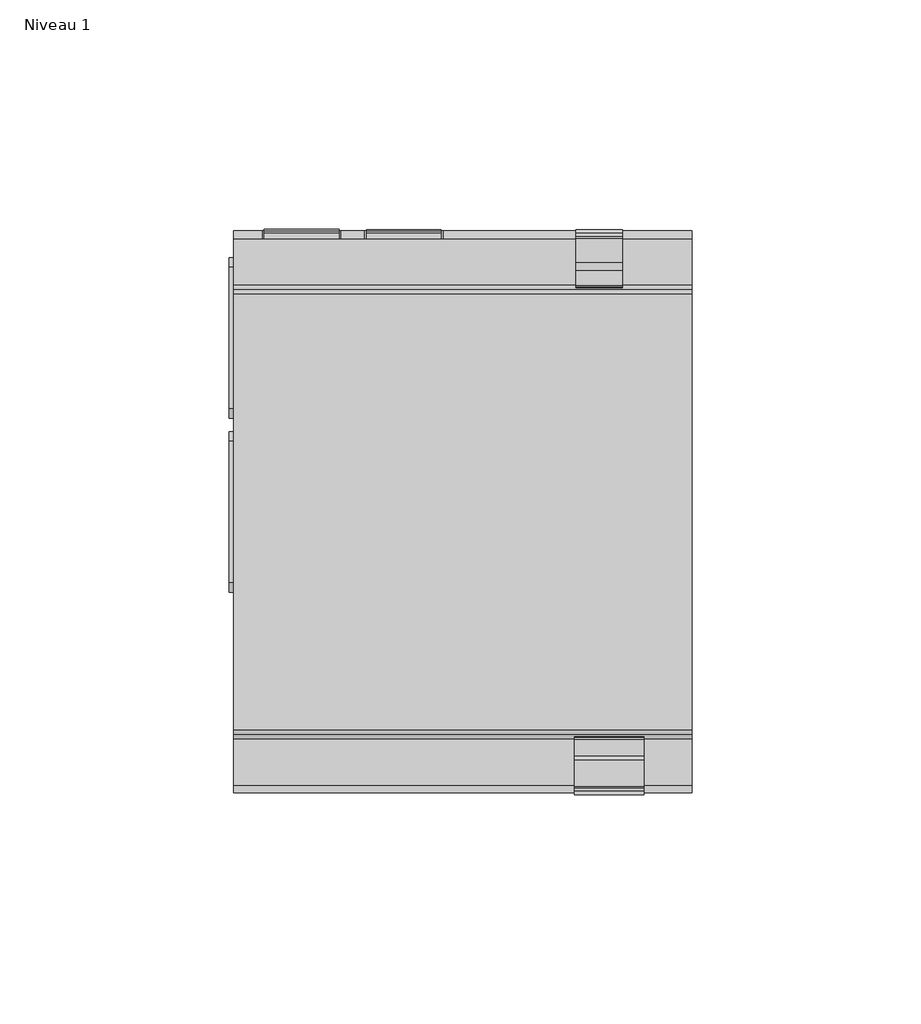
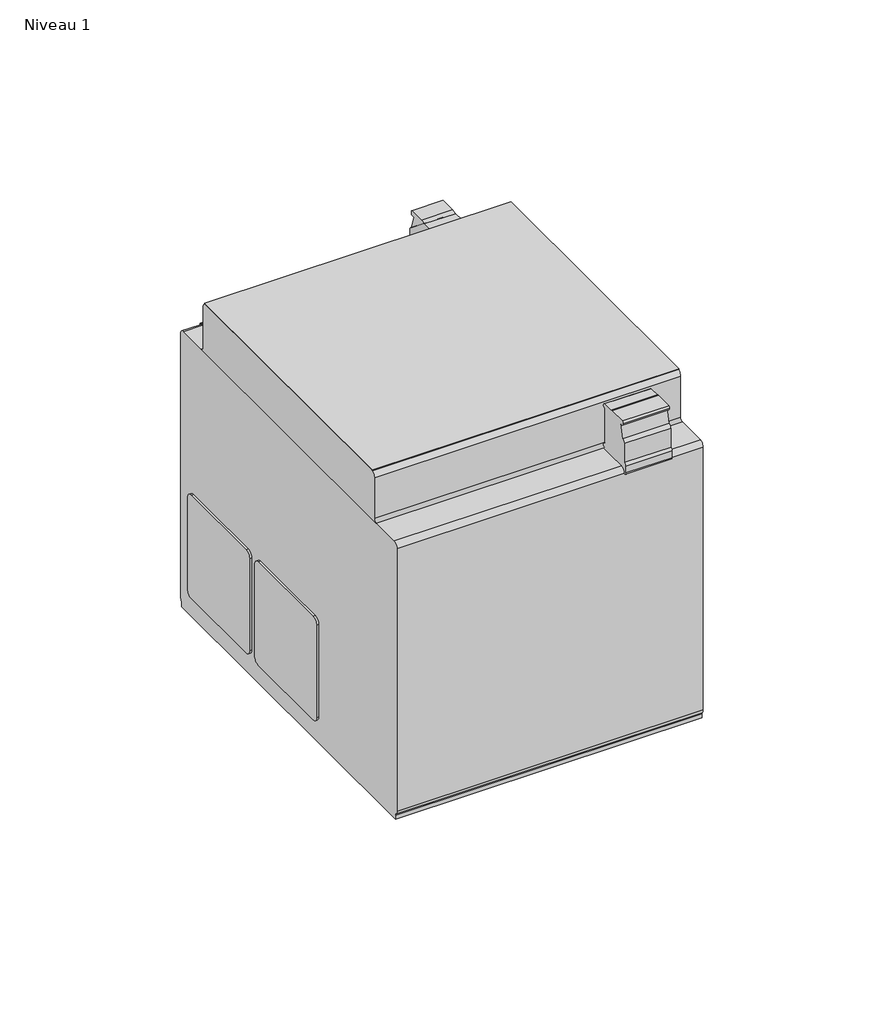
# One storey: 1 proxy.
"""IFC4 building model written with IfcOpenShell, lengths in millimetres."""

import ifcopenshell
import ifcopenshell.guid

model = None  # the IFC model being written
_history = None  # IfcOwnerHistory: only IFC2X3 demands one
_inside = {}  # id of a spatial element -> (the spatial element, [elements in it])
_under = {}  # id of a project, library or spatial element -> (it, [spatial elements below it])
_declared = {}  # id of a project -> (the project, [libraries it declares])
_typed = {}  # id of a type object -> (the type object, [elements of that type])
_made_of = {}  # id of a material, layer set ... -> (it, [elements and type objects made of it])


def new_model(schema):
    """Start an empty IFC model of exactly this schema.

    Asked for "IFC4X3", IfcOpenShell would pick the latest addendum, in which some entities
    have other attributes; the version numbers below select the first issue.
    IFC2X3 requires an IfcOwnerHistory on every rooted entity: one is made here for all.
    """
    global model, _history
    if schema == "IFC4X3":
        model = ifcopenshell.file(schema_version=(4, 3, 0, 0))
    else:
        model = ifcopenshell.file(schema=schema)
    _inside.clear()
    _under.clear()
    _declared.clear()
    _typed.clear()
    _made_of.clear()
    _history = None
    if model.schema == "IFC2X3":
        org = make("IfcOrganization", Name="unknown")
        user = make(
            "IfcPersonAndOrganization",
            ThePerson=make("IfcPerson", FamilyName="unknown"),
            TheOrganization=org,
        )
        app = make(
            "IfcApplication",
            ApplicationDeveloper=org,
            Version="unknown",
            ApplicationFullName="unknown",
            ApplicationIdentifier="unknown",
        )
        _history = make(
            "IfcOwnerHistory",
            OwningUser=user,
            OwningApplication=app,
            ChangeAction="ADDED",
            CreationDate=0,
        )
    return model


def make(cls, **values):
    """One entity of the class cls with the attributes given. An attribute that is None is left unset."""
    return model.create_entity(
        cls, **{name: value for name, value in values.items() if value is not None}
    )


def rooted(cls, **values):
    """An entity with a GlobalId (a new one), such as an element, a storey or a relation."""
    return make(cls, GlobalId=ifcopenshell.guid.new(), OwnerHistory=_history, **values)


def si_unit(unit_type, name, prefix=None):
    """IfcSIUnit, for example si_unit("LENGTHUNIT", "METRE", prefix="MILLI")."""
    return make("IfcSIUnit", UnitType=unit_type, Prefix=prefix, Name=name)


def assignment(units):
    """IfcUnitAssignment: the units of a project."""
    return None if units is None else make("IfcUnitAssignment", Units=units)


def point(xyz):
    """IfcCartesianPoint."""
    return None if xyz is None else make("IfcCartesianPoint", Coordinates=xyz)


def direction(xyz):
    """IfcDirection."""
    return None if xyz is None else make("IfcDirection", DirectionRatios=xyz)


def frame(location, z_axis=None, x_axis=None):
    """IfcAxis2Placement3D, a coordinate frame: its origin and axes. An axis left out is left unset."""
    return make(
        "IfcAxis2Placement3D",
        Location=point(location),
        Axis=direction(z_axis),
        RefDirection=direction(x_axis),
    )


def frame_2d(location, x_axis=None):
    """IfcAxis2Placement2D, a coordinate frame in the plane: its origin and x axis."""
    return make(
        "IfcAxis2Placement2D", Location=point(location), RefDirection=direction(x_axis)
    )


def origin():
    """The frame at (0, 0, 0) with its axes left unset."""
    return frame((0.0, 0.0, 0.0))


def place(relative_to, where):
    """IfcLocalPlacement: puts the frame where relative to a parent placement (None: the world)."""
    return make(
        "IfcLocalPlacement", PlacementRelTo=relative_to, RelativePlacement=where
    )


def context(
    kind, dimensions, precision=None, world=None, true_north=None, identifier=None
):
    """IfcGeometricRepresentationContext, for example the 3D "Model" context."""
    return make(
        "IfcGeometricRepresentationContext",
        ContextIdentifier=identifier,
        ContextType=kind,
        CoordinateSpaceDimension=dimensions,
        Precision=precision,
        WorldCoordinateSystem=world,
        TrueNorth=true_north,
    )


def project(units=None, contexts=None):
    """IfcProject with its units and contexts."""
    return rooted(
        "IfcProject",
        Name="project",
        RepresentationContexts=contexts,
        UnitsInContext=assignment(units),
    )


def spatial(cls, under=None, at=None, **own):
    """A site, building, storey or space (cls), placed at a placement, below another one or the project."""
    s = rooted(cls, ObjectPlacement=at, **own)
    if under is not None:
        _under.setdefault(under.id(), (under, []))[1].append(s)
    return s


def polyline(points):
    """IfcPolyline through the points."""
    return make("IfcPolyline", Points=[point(p) for p in points])


def circle_curve(where, radius):
    """IfcCircle in the frame where."""
    return make("IfcCircle", Position=where, Radius=radius)


def trimmed(basis, trim1, trim2, sense, master):
    """IfcTrimmedCurve: the piece of a basis curve between two trims."""
    return make(
        "IfcTrimmedCurve",
        BasisCurve=basis,
        Trim1=trim1,
        Trim2=trim2,
        SenseAgreement=sense,
        MasterRepresentation=master,
    )


def segment(curve, same_sense, transition):
    """IfcCompositeCurveSegment."""
    return make(
        "IfcCompositeCurveSegment",
        Transition=transition,
        SameSense=same_sense,
        ParentCurve=curve,
    )


def composite_curve(segments, self_intersect=None):
    """IfcCompositeCurve: segments joined end to end."""
    return make("IfcCompositeCurve", Segments=segments, SelfIntersect=self_intersect)


def outline(outer, holes=None, kind="AREA"):
    """IfcArbitraryClosedProfileDef: a profile drawn as a closed curve; with holes, ...WithVoids."""
    if holes is None:
        return make("IfcArbitraryClosedProfileDef", ProfileType=kind, OuterCurve=outer)
    return make(
        "IfcArbitraryProfileDefWithVoids",
        ProfileType=kind,
        OuterCurve=outer,
        InnerCurves=holes,
    )


def extrude(swept, where, along, depth):
    """IfcExtrudedAreaSolid: the profile swept, set in the frame where, extruded along a direction by depth."""
    return make(
        "IfcExtrudedAreaSolid",
        SweptArea=swept,
        Position=where,
        ExtrudedDirection=direction(along),
        Depth=depth,
    )


def faces_of(points, faces, orient=None, outer=None):
    """IfcFace entities. A face is a list of loops; a loop is a list of indices into points, from 0.

    orient and outer hold one flag for each loop. By default every Orientation is true, the
    first loop of a face is its IfcFaceOuterBound and the others are IfcFaceBound.
    """
    made = []
    for i, loops in enumerate(faces):
        bounds = []
        for j, loop in enumerate(loops):
            is_outer = j == 0 if outer is None else outer[i][j]
            bounds.append(
                make(
                    "IfcFaceOuterBound" if is_outer else "IfcFaceBound",
                    Bound=make("IfcPolyLoop", Polygon=[points[k] for k in loop]),
                    Orientation=True if orient is None else orient[i][j],
                )
            )
        made.append(make("IfcFace", Bounds=bounds))
    return made


def faceted_brep(points, faces, orient=None, outer=None, voids=None):
    """IfcFacetedBrep: a solid bounded by flat faces; with voids (closed shells), ...WithVoids."""
    shared = [point(p) for p in points]
    hull = make("IfcClosedShell", CfsFaces=faces_of(shared, faces, orient, outer))
    if voids is None:
        return make("IfcFacetedBrep", Outer=hull)
    return make(
        "IfcFacetedBrepWithVoids",
        Outer=hull,
        Voids=[
            make(cls, CfsFaces=faces_of(shared, fs, o, b)) for cls, fs, o, b in voids
        ],
    )


def shape(context_of_items, identifier, shape_type, items):
    """IfcShapeRepresentation: the items that make up one representation, for example the "Body"."""
    return make(
        "IfcShapeRepresentation",
        ContextOfItems=context_of_items,
        RepresentationIdentifier=identifier,
        RepresentationType=shape_type,
        Items=items,
    )


def source(mapping_origin, context_of_items, identifier, shape_type, items):
    """IfcRepresentationMap: a shape defined once, which mapped items show again and again."""
    return make(
        "IfcRepresentationMap",
        MappingOrigin=mapping_origin,
        MappedRepresentation=shape(context_of_items, identifier, shape_type, items),
    )


def transform(
    local_origin,
    x_axis=None,
    y_axis=None,
    z_axis=None,
    scale=None,
    scale2=None,
    scale3=None,
    uniform=True,
):
    """IfcCartesianTransformationOperator3D, or its non-uniform kind. x_axis, y_axis, z_axis: its Axis1, 2, 3."""
    if uniform:
        return make(
            "IfcCartesianTransformationOperator3D",
            Axis1=direction(x_axis),
            Axis2=direction(y_axis),
            LocalOrigin=point(local_origin),
            Scale=scale,
            Axis3=direction(z_axis),
        )
    return make(
        "IfcCartesianTransformationOperator3DnonUniform",
        Axis1=direction(x_axis),
        Axis2=direction(y_axis),
        LocalOrigin=point(local_origin),
        Scale=scale,
        Axis3=direction(z_axis),
        Scale2=scale2,
        Scale3=scale3,
    )


def mapped(mapping_source, mapping_target):
    """IfcMappedItem: shows the shape of a source again, moved by a transform."""
    return make(
        "IfcMappedItem", MappingSource=mapping_source, MappingTarget=mapping_target
    )


def made_of(thing, what):
    """Note that an element or type object is made of a material, layer set ...; save() writes the relation."""
    if what is not None:
        _made_of.setdefault(what.id(), (what, []))[1].append(thing)
    return thing


def element(
    cls,
    number,
    at=None,
    inside=None,
    cuts=None,
    type_object=None,
    material=None,
    context=None,
    identifier="Body",
    shape_type=None,
    held_by="IfcProductDefinitionShape",
    body=None,
    shapes=None,
    **own,
):
    """One element of the class cls, such as IfcWall. Its Tag is "e" and its number.

    at: its placement. inside: the storey or other place that contains it. cuts: it is an
    opening in that element (IfcRelVoidsElement). A single representation is given by context,
    identifier, shape_type and body (its items); several are given by shapes. held_by: the class
    of the entity that holds the representations. save() writes the other relations.
    """
    e = rooted(cls, Tag="e%d" % number, ObjectPlacement=at, **own)
    if body is not None:
        shapes = [shape(context, identifier, shape_type, body)]
    if shapes is not None:
        e.Representation = make(held_by, Representations=shapes)
    if inside is not None:
        _inside.setdefault(inside.id(), (inside, []))[1].append(e)
    if cuts is not None:
        rooted(
            "IfcRelVoidsElement", RelatingBuildingElement=cuts, RelatedOpeningElement=e
        )
    if type_object is not None:
        _typed.setdefault(type_object.id(), (type_object, []))[1].append(e)
    return made_of(e, material)


def aggregate(whole, parts):
    """IfcRelAggregates: a whole, such as a stair, and the parts it consists of."""
    return rooted("IfcRelAggregates", RelatingObject=whole, RelatedObjects=parts)


def save(model, path):
    """Write the relations noted so far, then the file.

    IfcRelAggregates (storeys below a building ...), IfcRelContainedInSpatialStructure (elements
    in a storey), IfcRelDefinesByType, IfcRelAssociatesMaterial and IfcRelDeclares: one each for
    every whole, place, type object, material and project.
    """
    for whole, parts in _under.values():
        aggregate(whole, parts)
    for where, things in _inside.values():
        rooted(
            "IfcRelContainedInSpatialStructure",
            RelatedElements=things,
            RelatingStructure=where,
        )
    for kind, things in _typed.values():
        rooted("IfcRelDefinesByType", RelatedObjects=things, RelatingType=kind)
    for what, things in _made_of.values():
        rooted("IfcRelAssociatesMaterial", RelatedObjects=things, RelatingMaterial=what)
    for by, libraries in _declared.values():
        rooted("IfcRelDeclares", RelatingContext=by, RelatedDefinitions=libraries)
    model.write(path)


def plane_surface(at):
    """IfcPlane: the flat surface through the origin of the frame at, square to its z axis."""
    return make("IfcPlane", Position=at)


def cylinder_surface(at, radius):
    """IfcCylindricalSurface: all points at the distance radius from the z axis of the frame at."""
    return make("IfcCylindricalSurface", Position=at, Radius=radius)


def advanced_brep(points, edges, surfaces, faces):
    """IfcAdvancedBrep: a solid bounded by faces that lie on surfaces and meet in shared edges.

    An edge is (start, end): straight between two places in points (the first is 0);
    or (start, end, curve); or (start, end, curve, False) where it runs against its curve.
    A face is (place in surfaces, loops), or (place, loops, False) where it looks against
    its surface's normal. A loop lists edges by number (the first is 1), with a minus sign
    where the edge is run from its end to its start. The first loop is the outer one.
    """
    corners = [point(p) for p in points]
    vertices = [make("IfcVertexPoint", VertexGeometry=c) for c in corners]
    made = []
    for start, end, *more in edges:
        made.append(
            make(
                "IfcEdgeCurve",
                EdgeStart=vertices[start],
                EdgeEnd=vertices[end],
                EdgeGeometry=more[0] if more else make("IfcPolyline", Points=[corners[start], corners[end]]),
                SameSense=more[1] if len(more) > 1 else True,
            )
        )
    hull = []
    for where, loops, *sense in faces:
        bounds = []
        for j, loop in enumerate(loops):
            ring = [make("IfcOrientedEdge", EdgeElement=made[abs(k) - 1], Orientation=k > 0) for k in loop]
            bounds.append(
                make(
                    "IfcFaceOuterBound" if j == 0 else "IfcFaceBound",
                    Bound=make("IfcEdgeLoop", EdgeList=ring),
                    Orientation=True,
                )
            )
        hull.append(make("IfcAdvancedFace", Bounds=bounds, FaceSurface=surfaces[where], SameSense=sense[0] if sense else True))
    return make("IfcAdvancedBrep", Outer=make("IfcClosedShell", CfsFaces=hull))


def electrical_equipment_22382a5e(model_context):
    return source(origin(), model_context, "Body", "SolidModel", [
        faceted_brep([(-50.3146317, -40.2597523, 112.75), (49.6853683, -40.2597523, 112.75), (49.6853683, 54.7402477, 112.75), (-50.3146317, 54.7402477, 112.75), (-50.3146317, 54.7402477, 112.5), (49.6853683, 54.7402477, 112.5), (49.6853683, 53.9402477, 112.5), (49.6853683, -39.5772719, 112.5), (49.6853683, -40.2597523, 112.5), (-50.3146317, -40.2597523, 112.5), (-50.3146317, -39.5772719, 112.5), (-50.3146317, 53.9402477, 112.5)], [[[0, 1, 2, 3]], [[4, 5, 6, 7, 8, 9, 10, 11]], [[1, 0, 9, 8]], [[2, 1, 8, 7, 6, 5]], [[3, 2, 5, 4]], [[0, 3, 4, 11, 10, 9]]]),
        extrude(outline(composite_curve([segment(polyline([(56.7402477, 95.6), (-42.2597523, 95.6)]), True, "CONTINUOUS"), segment(trimmed(circle_curve(frame_2d((-42.2597523, 96.6)), 1.0), [point((-42.2597523, 95.6))], [point((-41.2597523, 96.6))], True, "CARTESIAN"), True, "CONTINUOUS"), segment(polyline([(-41.2597523, 96.6), (-41.2597523, 110.6314162)]), True, "CONTINUOUS"), segment(trimmed(circle_curve(frame_2d((-39.443734, 110.6880139)), 1.8169001), [point((-41.2597523, 110.6314162))], [point((-39.5772719, 112.5))], False, "CARTESIAN"), True, "CONTINUOUS"), segment(polyline([(-39.5772719, 112.5), (53.9402477, 112.5)]), True, "CONTINUOUS"), segment(trimmed(circle_curve(frame_2d((53.9402477, 110.7)), 1.8), [point((53.9402477, 112.5))], [point((55.7402477, 110.7))], False, "CARTESIAN"), True, "CONTINUOUS"), segment(polyline([(55.7402477, 110.7), (55.7402477, 96.6)]), True, "CONTINUOUS"), segment(trimmed(circle_curve(frame_2d((56.7402477, 96.6)), 1.0), [point((55.7402477, 96.6))], [point((56.7402477, 95.6))], True, "CARTESIAN"), True, "CONTINUOUS")], self_intersect=False)), frame((-50.3146317, 0.0, 0.0), z_axis=(1.0, 0.0, 0.0), x_axis=(0.0, 1.0, 0.0)), (0.0, 0.0, 1.0), 100.0),
        extrude(outline(composite_curve([segment(polyline([(61.5925701, 111.07), (66.977955, 111.07)]), True, "CONTINUOUS"), segment(trimmed(circle_curve(frame_2d((66.2861586, 110.3582814)), 0.992535), [point((66.977955, 111.07))], [point((66.8892656, 109.57))], False, "CARTESIAN"), True, "CONTINUOUS"), segment(polyline([(66.8892656, 109.57), (65.877955, 109.57), (67.0309554, 105.2669438)]), True, "CONTINUOUS"), segment(trimmed(circle_curve(frame_2d((66.4695429, 103.84)), 1.5334122), [point((67.0309554, 105.2669438))], [point((68.002955, 103.84))], False, "CARTESIAN"), True, "CONTINUOUS"), segment(polyline([(68.002955, 103.84), (68.002955, 97.6942542)]), True, "CONTINUOUS"), segment(trimmed(circle_curve(frame_2d((69.5410007, 98.4684748)), 1.7219181), [point((68.002955, 97.6942542))], [point((68.8058426, 96.9113799))], True, "CARTESIAN"), True, "CONTINUOUS"), segment(polyline([(68.8058426, 96.9113799), (68.8058426, 93.6358813), (67.297955, 93.37), (58.2813391, 93.37), (56.197955, 93.6053488), (56.197955, 96.6274333)]), True, "CONTINUOUS"), segment(trimmed(circle_curve(frame_2d((57.0691961, 96.4948595)), 0.88127), [point((56.197955, 96.6274333))], [point((57.172955, 97.37))], False, "CARTESIAN"), True, "CONTINUOUS"), segment(polyline([(57.172955, 97.37), (57.172955, 108.5084691)]), True, "CONTINUOUS"), segment(trimmed(circle_curve(frame_2d((56.5356003, 108.8574423)), 0.7266384), [point((57.172955, 108.5084691))], [point((56.677955, 109.57))], True, "CARTESIAN"), True, "CONTINUOUS"), segment(trimmed(circle_curve(frame_2d((57.137021, 110.1612762)), 0.7485647), [point((56.677955, 109.57))], [point((56.677955, 110.7525524))], False, "CARTESIAN"), True, "CONTINUOUS"), segment(polyline([(56.677955, 110.7525524), (60.0085378, 110.7525524)]), True, "CONTINUOUS"), segment(trimmed(circle_curve(frame_2d((61.5925701, 106.9591927)), 4.1108073), [point((60.0085378, 110.7525524))], [point((61.5925701, 111.07))], False, "CARTESIAN"), True, "CONTINUOUS")], self_intersect=False), holes=[composite_curve([segment(polyline([(68.5402477, 93.9367188), (68.5402477, 95.6), (66.7402477, 95.6)]), True, "CONTINUOUS"), segment(trimmed(circle_curve(frame_2d((66.7402477, 93.794381)), 1.805619), [point((66.7402477, 95.6))], [point((68.5402477, 93.9367188))], False, "CARTESIAN"), True, "CONTINUOUS")], self_intersect=False)]), frame((24.3953683, 0.0, 0.0), z_axis=(1.0, 0.0, 0.0), x_axis=(0.0, 1.0, 0.0)), (0.0, 0.0, 1.0), 10.2),
        advanced_brep(
        [(-43.6073283, 68.5402477, 93.9367188), (-27.3073283, 68.5402477, 93.9367188), (-27.3073283, 68.5402477, 94.9), (-43.6073283, 68.5402477, 94.9), (-43.6073283, 68.1677863, 94.9), (-27.3073283, 68.1677863, 94.9), (-27.3073283, 53.0602477, 81.4), (-27.3073283, 53.0602477, 94.9), (-43.6073283, 53.0602477, 94.9), (-43.6073283, 53.0602477, 81.4), (-39.1073283, 53.0602477, 93.7), (-31.8073283, 53.0602477, 93.7), (-31.8073283, 53.0602477, 91.04), (-29.3073283, 53.0602477, 91.04), (-29.3073283, 53.0602477, 83.75), (-41.6073283, 53.0602477, 83.75), (-41.6073283, 53.0602477, 91.04), (-39.1073283, 53.0602477, 91.04), (-27.3073283, 68.9402477, 81.4), (-43.6073283, 68.9402477, 81.4), (-43.6073283, 68.9402477, 94.9), (-27.3073283, 68.9402477, 94.9), (-39.1073283, 68.9402477, 93.7), (-39.1073283, 68.9402477, 91.04), (-41.6073283, 68.9402477, 91.04), (-41.6073283, 68.9402477, 83.75), (-29.3073283, 68.9402477, 83.75), (-29.3073283, 68.9402477, 91.04), (-31.8073283, 68.9402477, 91.04), (-31.8073283, 68.9402477, 93.7)],
        [
            (0, 1),
            (1, 2),
            (2, 3),
            (3, 0),
            (0, 4, circle_curve(frame((-43.6073283, 66.7402477, 93.794381), z_axis=(1.0, 0.0, 0.0), x_axis=(0.0, 1.0, 0.0)), 1.805619)),
            (4, 5),
            (5, 1, circle_curve(frame((-27.3073283, 66.7402477, 93.794381), z_axis=(-1.0, 0.0, 0.0), x_axis=(0.0, 1.0, 0.0)), 1.805619)),
            (6, 7),
            (7, 8),
            (8, 9),
            (9, 6),
            (10, 11),
            (11, 12),
            (12, 13),
            (13, 14),
            (14, 15),
            (15, 16),
            (16, 17),
            (17, 10),
            (18, 19),
            (19, 20),
            (20, 21),
            (21, 18),
            (22, 23),
            (23, 24),
            (24, 25),
            (25, 26),
            (26, 27),
            (27, 28),
            (28, 29),
            (29, 22),
            (9, 19),
            (18, 6),
            (8, 4),
            (3, 20),
            (7, 5),
            (2, 21),
            (17, 23),
            (22, 10),
            (16, 24),
            (15, 25),
            (14, 26),
            (13, 27),
            (12, 28),
            (11, 29),
        ],
        [
            plane_surface(frame((-50.3146317, 68.5402477, 95.6), z_axis=(0.0, -1.0, 0.0), x_axis=(1.0, 0.0, 0.0))),
            cylinder_surface(frame((49.6853683, 66.7402477, 93.794381), z_axis=(1.0, 0.0, 0.0), x_axis=(0.0, 1.0, 0.0)), 1.805619),
            plane_surface(frame((-27.3073283, 53.0602477, 81.4), z_axis=(0.0, -1.0, 0.0), x_axis=(1.0, 0.0, 0.0))),
            plane_surface(frame((-27.3073283, 68.9402477, 81.4), z_axis=(0.0, 1.0, 0.0), x_axis=(-1.0, 0.0, 0.0))),
            plane_surface(frame((-27.3073283, 68.9402477, 81.4), z_axis=(0.0, 0.0, -1.0), x_axis=(0.0, -1.0, 0.0))),
            plane_surface(frame((-43.6073283, 68.9402477, 81.4), z_axis=(-1.0, 0.0, 0.0), x_axis=(0.0, -1.0, 0.0))),
            plane_surface(frame((-43.6073283, 68.9402477, 94.9), z_axis=(0.0, 0.0, 1.0), x_axis=(0.0, -1.0, 0.0))),
            plane_surface(frame((-27.3073283, 68.9402477, 94.9), z_axis=(1.0, 0.0, 0.0), x_axis=(0.0, -1.0, 0.0))),
            plane_surface(frame((-39.1073283, 68.9402477, 93.7), z_axis=(1.0, 0.0, 0.0), x_axis=(0.0, -1.0, 0.0))),
            plane_surface(frame((-39.1073283, 68.9402477, 91.04), z_axis=(0.0, 0.0, -1.0), x_axis=(0.0, -1.0, 0.0))),
            plane_surface(frame((-41.6073283, 68.9402477, 91.04), z_axis=(1.0, 0.0, 0.0), x_axis=(0.0, -1.0, 0.0))),
            plane_surface(frame((-41.6073283, 68.9402477, 83.75), z_axis=(0.0, 0.0, 1.0), x_axis=(0.0, -1.0, 0.0))),
            plane_surface(frame((-29.3073283, 68.9402477, 83.75), z_axis=(-1.0, 0.0, 0.0), x_axis=(0.0, -1.0, 0.0))),
            plane_surface(frame((-29.3073283, 68.9402477, 91.04), z_axis=(0.0, 0.0, -1.0), x_axis=(0.0, -1.0, 0.0))),
            plane_surface(frame((-31.8073283, 68.9402477, 91.04), z_axis=(-1.0, 0.0, 0.0), x_axis=(0.0, -1.0, 0.0))),
            plane_surface(frame((-31.8073283, 68.9402477, 93.7), z_axis=(0.0, 0.0, -1.0), x_axis=(0.0, -1.0, 0.0))),
        ],
        [
            (0, [[1, 2, 3, 4]]),
            (1, [[-1, 5, 6, 7]]),
            (2, [[8, 9, 10, 11], [12, 13, 14, 15, 16, 17, 18, 19]]),
            (3, [[20, 21, 22, 23], [24, 25, 26, 27, 28, 29, 30, 31]]),
            (4, [[-11, 32, -20, 33]]),
            (5, [[-10, 34, -5, -4, 35, -21, -32]]),
            (6, [[-9, 36, -6, -34]]),
            (6, [[-22, -35, -3, 37]]),
            (7, [[-8, -33, -23, -37, -2, -7, -36]]),
            (8, [[-19, 38, -24, 39]]),
            (9, [[-18, 40, -25, -38]]),
            (10, [[-17, 41, -26, -40]]),
            (11, [[-16, 42, -27, -41]]),
            (12, [[-15, 43, -28, -42]]),
            (13, [[-14, 44, -29, -43]]),
            (14, [[-13, 45, -30, -44]]),
            (15, [[-12, -39, -31, -45]]),
        ],
    ),
        advanced_brep(
        [(-21.3146317, 68.5402477, 93.9367188), (-5.0146317, 68.5402477, 93.9367188), (-5.0146317, 68.5402477, 94.9), (-21.3146317, 68.5402477, 94.9), (-21.3146317, 68.1677863, 94.9), (-5.0146317, 68.1677863, 94.9), (-5.0146317, 53.0602477, 81.4), (-5.0146317, 53.0602477, 94.9), (-21.3146317, 53.0602477, 94.9), (-21.3146317, 53.0602477, 81.4), (-16.8146317, 53.0602477, 93.7), (-9.5146317, 53.0602477, 93.7), (-9.5146317, 53.0602477, 91.04), (-7.0146317, 53.0602477, 91.04), (-7.0146317, 53.0602477, 83.75), (-19.3146317, 53.0602477, 83.75), (-19.3146317, 53.0602477, 91.04), (-16.8146317, 53.0602477, 91.04), (-5.0146317, 68.8602477, 81.4), (-21.3146317, 68.8602477, 81.4), (-21.3146317, 68.8602477, 94.9), (-5.0146317, 68.8602477, 94.9), (-16.8146317, 68.8602477, 93.7), (-16.8146317, 68.8602477, 91.04), (-19.3146317, 68.8602477, 91.04), (-19.3146317, 68.8602477, 83.75), (-7.0146317, 68.8602477, 83.75), (-7.0146317, 68.8602477, 91.04), (-9.5146317, 68.8602477, 91.04), (-9.5146317, 68.8602477, 93.7)],
        [
            (0, 1),
            (1, 2),
            (2, 3),
            (3, 0),
            (0, 4, circle_curve(frame((-21.3146317, 66.7402477, 93.794381), z_axis=(1.0, 0.0, 0.0), x_axis=(0.0, 1.0, 0.0)), 1.805619)),
            (4, 5),
            (5, 1, circle_curve(frame((-5.0146317, 66.7402477, 93.794381), z_axis=(-1.0, 0.0, 0.0), x_axis=(0.0, 1.0, 0.0)), 1.805619)),
            (6, 7),
            (7, 8),
            (8, 9),
            (9, 6),
            (10, 11),
            (11, 12),
            (12, 13),
            (13, 14),
            (14, 15),
            (15, 16),
            (16, 17),
            (17, 10),
            (18, 19),
            (19, 20),
            (20, 21),
            (21, 18),
            (22, 23),
            (23, 24),
            (24, 25),
            (25, 26),
            (26, 27),
            (27, 28),
            (28, 29),
            (29, 22),
            (9, 19),
            (18, 6),
            (8, 4),
            (3, 20),
            (7, 5),
            (2, 21),
            (17, 23),
            (22, 10),
            (16, 24),
            (15, 25),
            (14, 26),
            (13, 27),
            (12, 28),
            (11, 29),
        ],
        [
            plane_surface(frame((-50.3146317, 68.5402477, 95.6), z_axis=(0.0, -1.0, 0.0), x_axis=(1.0, 0.0, 0.0))),
            cylinder_surface(frame((49.6853683, 66.7402477, 93.794381), z_axis=(1.0, 0.0, 0.0), x_axis=(0.0, 1.0, 0.0)), 1.805619),
            plane_surface(frame((-5.0146317, 53.0602477, 81.4), z_axis=(0.0, -1.0, 0.0), x_axis=(1.0, 0.0, 0.0))),
            plane_surface(frame((-5.0146317, 68.8602477, 81.4), z_axis=(0.0, 1.0, 0.0), x_axis=(-1.0, 0.0, 0.0))),
            plane_surface(frame((-5.0146317, 68.8602477, 81.4), z_axis=(0.0, 0.0, -1.0), x_axis=(0.0, -1.0, 0.0))),
            plane_surface(frame((-21.3146317, 68.8602477, 81.4), z_axis=(-1.0, 0.0, 0.0), x_axis=(0.0, -1.0, 0.0))),
            plane_surface(frame((-21.3146317, 68.8602477, 94.9), z_axis=(0.0, 0.0, 1.0), x_axis=(0.0, -1.0, 0.0))),
            plane_surface(frame((-5.0146317, 68.8602477, 94.9), z_axis=(1.0, 0.0, 0.0), x_axis=(0.0, -1.0, 0.0))),
            plane_surface(frame((-16.8146317, 68.8602477, 93.7), z_axis=(1.0, 0.0, 0.0), x_axis=(0.0, -1.0, 0.0))),
            plane_surface(frame((-16.8146317, 68.8602477, 91.04), z_axis=(0.0, 0.0, -1.0), x_axis=(0.0, -1.0, 0.0))),
            plane_surface(frame((-19.3146317, 68.8602477, 91.04), z_axis=(1.0, 0.0, 0.0), x_axis=(0.0, -1.0, 0.0))),
            plane_surface(frame((-19.3146317, 68.8602477, 83.75), z_axis=(0.0, 0.0, 1.0), x_axis=(0.0, -1.0, 0.0))),
            plane_surface(frame((-7.0146317, 68.8602477, 83.75), z_axis=(-1.0, 0.0, 0.0), x_axis=(0.0, -1.0, 0.0))),
            plane_surface(frame((-7.0146317, 68.8602477, 91.04), z_axis=(0.0, 0.0, -1.0), x_axis=(0.0, -1.0, 0.0))),
            plane_surface(frame((-9.5146317, 68.8602477, 91.04), z_axis=(-1.0, 0.0, 0.0), x_axis=(0.0, -1.0, 0.0))),
            plane_surface(frame((-9.5146317, 68.8602477, 93.7), z_axis=(0.0, 0.0, -1.0), x_axis=(0.0, -1.0, 0.0))),
        ],
        [
            (0, [[1, 2, 3, 4]]),
            (1, [[-1, 5, 6, 7]]),
            (2, [[8, 9, 10, 11], [12, 13, 14, 15, 16, 17, 18, 19]]),
            (3, [[20, 21, 22, 23], [24, 25, 26, 27, 28, 29, 30, 31]]),
            (4, [[-11, 32, -20, 33]]),
            (5, [[-10, 34, -5, -4, 35, -21, -32]]),
            (6, [[-9, 36, -6, -34]]),
            (6, [[-22, -35, -3, 37]]),
            (7, [[-8, -33, -23, -37, -2, -7, -36]]),
            (8, [[-19, 38, -24, 39]]),
            (9, [[-18, 40, -25, -38]]),
            (10, [[-17, 41, -26, -40]]),
            (11, [[-16, 42, -27, -41]]),
            (12, [[-15, 43, -28, -42]]),
            (13, [[-14, 44, -29, -43]]),
            (14, [[-13, 45, -30, -44]]),
            (15, [[-12, -39, -31, -45]]),
        ],
    ),
        extrude(outline(composite_curve([segment(polyline([(-46.0261161, 110.77), (-42.3671575, 110.77)]), True, "CONTINUOUS"), segment(trimmed(circle_curve(frame_2d((-42.7941878, 110.1176491)), 0.7796901), [point((-42.3671575, 110.77))], [point((-42.0310165, 109.9580051))], False, "CARTESIAN"), True, "CONTINUOUS"), segment(trimmed(circle_curve(frame_2d((-42.6279456, 110.2238127)), 0.6534355), [point((-42.0310165, 109.9580051))], [point((-42.8224597, 109.6))], False, "CARTESIAN"), True, "CONTINUOUS"), segment(polyline([(-42.8224597, 109.6), (-42.8224597, 97.4)]), True, "CONTINUOUS"), segment(trimmed(circle_curve(frame_2d((-42.6187437, 96.6158374)), 0.8101921), [point((-42.8224597, 97.4))], [point((-41.8474597, 96.8638943))], False, "CARTESIAN"), True, "CONTINUOUS"), segment(polyline([(-41.8474597, 96.8638943), (-41.8474597, 94.4), (-52.2597523, 94.4), (-53.2129408, 93.4468115), (-54.0570729, 93.575975)]), True, "CONTINUOUS"), segment(trimmed(circle_curve(frame_2d((-53.9812927, 94.071227)), 0.5010162), [point((-54.0570729, 93.575975))], [point((-54.4474597, 94.2548177))], False, "CARTESIAN"), True, "CONTINUOUS"), segment(polyline([(-54.4474597, 94.2548177), (-54.4474597, 96.605)]), True, "CONTINUOUS"), segment(trimmed(circle_curve(frame_2d((-53.6524597, 96.605)), 0.795), [point((-54.4474597, 96.605))], [point((-53.6524597, 97.4))], False, "CARTESIAN"), True, "CONTINUOUS"), segment(polyline([(-53.6524597, 97.4), (-53.6524597, 103.9565594)]), True, "CONTINUOUS"), segment(trimmed(circle_curve(frame_2d((-52.5710746, 103.9565594)), 1.0813851), [point((-53.6524597, 103.9565594))], [point((-52.7540361, 105.0223543))], False, "CARTESIAN"), True, "CONTINUOUS"), segment(polyline([(-52.7540361, 105.0223543), (-51.5274597, 109.6), (-52.4608777, 109.6)]), True, "CONTINUOUS"), segment(trimmed(circle_curve(frame_2d((-52.2607449, 110.2407053)), 0.671235), [point((-52.4608777, 109.6))], [point((-52.9274597, 110.3184733))], False, "CARTESIAN"), True, "CONTINUOUS"), segment(trimmed(circle_curve(frame_2d((-52.11704, 110.4557253)), 0.82196), [point((-52.9274597, 110.3184733))], [point((-52.6274597, 111.1))], False, "CARTESIAN"), True, "CONTINUOUS"), segment(polyline([(-52.6274597, 111.1), (-46.8049449, 111.1)]), True, "CONTINUOUS"), segment(trimmed(circle_curve(frame_2d((-46.8049449, 110.0159481)), 1.0840519), [point((-46.8049449, 111.1))], [point((-46.0261161, 110.77))], False, "CARTESIAN"), True, "CONTINUOUS")], self_intersect=False)), frame((24.1403683, 0.0, 0.0), z_axis=(1.0, 0.0, 0.0), x_axis=(0.0, 1.0, 0.0)), (0.0, 0.0, 1.0), 15.1751992),
        advanced_brep(
        [(-4.5146317, 66.7402477, 95.6), (-21.8146317, 66.7402477, 95.6), (-26.8146317, 66.7402477, 95.6), (-44.1146317, 66.7402477, 95.6), (-50.3146317, 66.7402477, 95.6), (-50.3146317, -52.3763019, 95.6), (49.6853683, -52.3763019, 95.6), (49.6853683, 66.7402477, 95.6), (49.6853683, 67.7402477, 0.0), (49.6853683, -53.2597523, 0.0), (-50.3146317, -53.2597523, 0.0), (-50.3146317, 67.7402477, 0.0), (49.6853683, 68.5402477, 3.3), (-50.3146317, 68.5402477, 3.3), (-50.3146317, 68.5402477, 93.8), (-44.1146317, 68.5402477, 93.8), (-44.1146317, 68.5402477, 80.5), (-26.8146317, 68.5402477, 80.5), (-26.8146317, 68.5402477, 93.8), (-21.8146317, 68.5402477, 93.8), (-21.8146317, 68.5402477, 80.5), (-4.5146317, 68.5402477, 80.5), (-4.5146317, 68.5402477, 93.8), (49.6853683, 68.5402477, 93.8), (-50.3146317, -53.2597523, 1.5), (-50.3146317, -52.2597523, 1.5), (-50.3146317, -54.0597523, 3.3), (-50.3146317, -54.0597523, 93.9165496), (-50.3146317, 66.7402477, 1.5), (-50.3146317, 67.7402477, 1.5), (49.6853683, -54.0597523, 3.3), (49.6853683, -54.0597523, 93.9165496), (49.6853683, 67.7402477, 1.5), (49.6853683, 66.7402477, 1.5), (49.6853683, -52.2597523, 1.5), (49.6853683, -53.2597523, 1.5), (-4.5146317, 66.7402477, 80.5), (-21.8146317, 66.7402477, 80.5), (-44.1146317, 66.7402477, 80.5), (-26.8146317, 66.7402477, 80.5)],
        [
            (0, 1),
            (1, 2),
            (2, 3),
            (3, 4),
            (4, 5),
            (5, 6),
            (6, 7),
            (7, 0),
            (8, 9),
            (9, 10),
            (10, 11),
            (11, 8),
            (12, 13),
            (13, 14),
            (14, 15),
            (15, 16),
            (16, 17),
            (17, 18),
            (18, 19),
            (19, 20),
            (20, 21),
            (21, 22),
            (22, 23),
            (23, 12),
            (10, 24),
            (24, 25),
            (25, 26, circle_curve(frame((-50.3146317, -52.2597523, 3.3), z_axis=(-1.0, 0.0, 0.0), x_axis=(0.0, 1.0, 0.0)), 1.8)),
            (26, 27),
            (27, 5, circle_curve(frame((-50.3146317, -52.3763019, 93.9165496), z_axis=(-1.0, 0.0, 0.0), x_axis=(0.0, 1.0, 0.0)), 1.6834504)),
            (4, 14, circle_curve(frame((-50.3146317, 66.7402477, 93.8), z_axis=(-1.0, 0.0, 0.0), x_axis=(0.0, 1.0, 0.0)), 1.8)),
            (13, 28, circle_curve(frame((-50.3146317, 66.7402477, 3.3), z_axis=(-1.0, 0.0, 0.0), x_axis=(0.0, 1.0, 0.0)), 1.8)),
            (28, 29),
            (29, 11),
            (26, 30),
            (30, 31),
            (31, 27),
            (8, 32),
            (32, 33),
            (33, 12, circle_curve(frame((49.6853683, 66.7402477, 3.3), z_axis=(1.0, 0.0, 0.0), x_axis=(0.0, 1.0, 0.0)), 1.8)),
            (23, 7, circle_curve(frame((49.6853683, 66.7402477, 93.8), z_axis=(1.0, 0.0, 0.0), x_axis=(0.0, 1.0, 0.0)), 1.8)),
            (6, 31, circle_curve(frame((49.6853683, -52.3763019, 93.9165496), z_axis=(1.0, 0.0, 0.0), x_axis=(0.0, 1.0, 0.0)), 1.6834504)),
            (30, 34, circle_curve(frame((49.6853683, -52.2597523, 3.3), z_axis=(1.0, 0.0, 0.0), x_axis=(0.0, 1.0, 0.0)), 1.8)),
            (34, 35),
            (35, 9),
            (25, 34),
            (24, 35),
            (29, 32),
            (28, 33),
            (0, 36),
            (36, 37),
            (37, 1),
            (38, 3),
            (2, 39),
            (39, 38),
            (37, 20),
            (19, 1, circle_curve(frame((-21.8146317, 66.7402477, 93.8), z_axis=(1.0, 0.0, 0.0), x_axis=(0.0, 1.0, 0.0)), 1.8)),
            (36, 21),
            (0, 22, circle_curve(frame((-4.5146317, 66.7402477, 93.8), z_axis=(-1.0, 0.0, 0.0), x_axis=(0.0, 1.0, 0.0)), 1.8)),
            (39, 17),
            (16, 38),
            (2, 18, circle_curve(frame((-26.8146317, 66.7402477, 93.8), z_axis=(-1.0, 0.0, 0.0), x_axis=(0.0, 1.0, 0.0)), 1.8)),
            (15, 3, circle_curve(frame((-44.1146317, 66.7402477, 93.8), z_axis=(1.0, 0.0, 0.0), x_axis=(0.0, 1.0, 0.0)), 1.8)),
        ],
        [
            plane_surface(frame((-50.3146317, 68.5402477, 95.6), z_axis=(0.0, 0.0, 1.0), x_axis=(-1.0, 0.0, 0.0))),
            plane_surface(frame((-50.3146317, 68.5402477, 0.0), z_axis=(0.0, 0.0, -1.0), x_axis=(1.0, 0.0, 0.0))),
            plane_surface(frame((49.6853683, 68.5402477, 95.6), z_axis=(0.0, 1.0, 0.0), x_axis=(0.0, 0.0, -1.0))),
            plane_surface(frame((-50.3146317, 68.5402477, 95.6), z_axis=(-1.0, 0.0, 0.0), x_axis=(0.0, 0.0, -1.0))),
            plane_surface(frame((-50.3146317, -54.0597523, 95.6), z_axis=(0.0, -1.0, 0.0), x_axis=(0.0, 0.0, -1.0))),
            plane_surface(frame((49.6853683, -54.0597523, 95.6), z_axis=(1.0, 0.0, 0.0), x_axis=(0.0, 0.0, -1.0))),
            cylinder_surface(frame((49.6853683, -52.2597523, 3.3), z_axis=(1.0, 0.0, 0.0), x_axis=(0.0, 1.0, 0.0)), 1.8),
            plane_surface(frame((-50.3146317, -52.2597523, 1.5), z_axis=(0.0, 0.0, 1.0), x_axis=(1.0, 0.0, 0.0))),
            plane_surface(frame((-50.3146317, -53.2597523, 1.5), z_axis=(0.0, -1.0, 0.0), x_axis=(1.0, 0.0, 0.0))),
            plane_surface(frame((-50.3146317, 67.7402477, 0.0), z_axis=(0.0, 1.0, 0.0), x_axis=(1.0, 0.0, 0.0))),
            plane_surface(frame((-50.3146317, 67.7402477, 1.5), z_axis=(0.0, 0.0, 1.0), x_axis=(1.0, 0.0, 0.0))),
            cylinder_surface(frame((49.6853683, 66.7402477, 3.3), z_axis=(1.0, 0.0, 0.0), x_axis=(0.0, 1.0, 0.0)), 1.8),
            plane_surface(frame((-21.8146317, 66.7402477, 95.6), z_axis=(0.0, 1.0, 0.0), x_axis=(0.0, 0.0, -1.0))),
            plane_surface(frame((-21.8146317, 66.7402477, 95.6), z_axis=(1.0, 0.0, 0.0), x_axis=(0.0, 1.0, 0.0))),
            plane_surface(frame((-21.8146317, 66.7402477, 80.5), z_axis=(0.0, 0.0, 1.0), x_axis=(0.0, 1.0, 0.0))),
            plane_surface(frame((-4.5146317, 66.7402477, 80.5), z_axis=(-1.0, 0.0, 0.0), x_axis=(0.0, 1.0, 0.0))),
            plane_surface(frame((-44.1146317, 66.7402477, 80.5), z_axis=(0.0, 0.0, 1.0), x_axis=(0.0, 1.0, 0.0))),
            plane_surface(frame((-26.8146317, 66.7402477, 80.5), z_axis=(-1.0, 0.0, 0.0), x_axis=(0.0, 1.0, 0.0))),
            plane_surface(frame((-44.1146317, 66.7402477, 95.6), z_axis=(1.0, 0.0, 0.0), x_axis=(0.0, 1.0, 0.0))),
            cylinder_surface(frame((49.6853683, -52.3763019, 93.9165496), z_axis=(1.0, 0.0, 0.0), x_axis=(0.0, 1.0, 0.0)), 1.6834504),
            cylinder_surface(frame((49.6853683, 66.7402477, 93.8), z_axis=(1.0, 0.0, 0.0), x_axis=(0.0, 1.0, 0.0)), 1.8),
        ],
        [
            (0, [[1, 2, 3, 4, 5, 6, 7, 8]]),
            (1, [[9, 10, 11, 12]]),
            (2, [[13, 14, 15, 16, 17, 18, 19, 20, 21, 22, 23, 24]]),
            (3, [[-11, 25, 26, 27, 28, 29, -5, 30, -14, 31, 32, 33]]),
            (4, [[34, 35, 36, -28]]),
            (5, [[-9, 37, 38, 39, -24, 40, -7, 41, -35, 42, 43, 44]]),
            (6, [[45, -42, -34, -27]]),
            (7, [[-45, -26, 46, -43]]),
            (8, [[-46, -25, -10, -44]]),
            (9, [[47, -37, -12, -33]]),
            (10, [[-47, -32, 48, -38]]),
            (11, [[-48, -31, -13, -39]]),
            (12, [[49, 50, 51, -1]]),
            (12, [[52, -3, 53, 54]]),
            (13, [[-51, 55, -20, 56]]),
            (14, [[-50, 57, -21, -55]]),
            (15, [[-49, 58, -22, -57]]),
            (16, [[-54, 59, -17, 60]]),
            (17, [[-53, 61, -18, -59]]),
            (18, [[-52, -60, -16, 62]]),
            (19, [[-6, -29, -36, -41]]),
            (20, [[-2, -56, -19, -61]]),
            (20, [[-4, -62, -15, -30]]),
            (20, [[-8, -40, -23, -58]]),
        ],
    ),
        extrude(outline(composite_curve([segment(trimmed(circle_curve(frame_2d((60.7402477, 41.125)), 2.0), [point((60.7402477, 43.125))], [point((62.7402477, 41.125))], False, "CARTESIAN"), True, "CONTINUOUS"), segment(polyline([(62.7402477, 41.125), (62.7402477, 9.5)]), True, "CONTINUOUS"), segment(trimmed(circle_curve(frame_2d((60.7402477, 9.5)), 2.0), [point((62.7402477, 9.5))], [point((60.7402477, 7.5))], False, "CARTESIAN"), True, "CONTINUOUS"), segment(polyline([(60.7402477, 7.5), (29.7402477, 7.5)]), True, "CONTINUOUS"), segment(trimmed(circle_curve(frame_2d((29.7402477, 9.5)), 2.0), [point((29.7402477, 7.5))], [point((27.7402477, 9.5))], False, "CARTESIAN"), True, "CONTINUOUS"), segment(polyline([(27.7402477, 9.5), (27.7402477, 41.125)]), True, "CONTINUOUS"), segment(trimmed(circle_curve(frame_2d((29.7402477, 41.125)), 2.0), [point((27.7402477, 41.125))], [point((29.7402477, 43.125))], False, "CARTESIAN"), True, "CONTINUOUS"), segment(polyline([(29.7402477, 43.125), (60.7402477, 43.125)]), True, "CONTINUOUS")], self_intersect=False)), frame((-51.3146317, 0.0, 0.0), z_axis=(1.0, 0.0, 0.0), x_axis=(0.0, 1.0, 0.0)), (0.0, 0.0, 1.0), 1.0),
        extrude(outline(composite_curve([segment(trimmed(circle_curve(frame_2d((22.7402477, 41.125)), 2.0), [point((22.7402477, 43.125))], [point((24.7402477, 41.125))], False, "CARTESIAN"), True, "CONTINUOUS"), segment(polyline([(24.7402477, 41.125), (24.7402477, 9.5)]), True, "CONTINUOUS"), segment(trimmed(circle_curve(frame_2d((22.7402477, 9.5)), 2.0), [point((24.7402477, 9.5))], [point((22.7402477, 7.5))], False, "CARTESIAN"), True, "CONTINUOUS"), segment(polyline([(22.7402477, 7.5), (-8.3609387, 7.5)]), True, "CONTINUOUS"), segment(trimmed(circle_curve(frame_2d((-8.3609387, 9.3988137)), 1.8988137), [point((-8.3609387, 7.5))], [point((-10.2597523, 9.3988137))], False, "CARTESIAN"), True, "CONTINUOUS"), segment(polyline([(-10.2597523, 9.3988137), (-10.2597523, 41.2599698)]), True, "CONTINUOUS"), segment(trimmed(circle_curve(frame_2d((-8.249553, 41.1091787)), 2.0158471), [point((-10.2597523, 41.2599698))], [point((-8.2393536, 43.125))], False, "CARTESIAN"), True, "CONTINUOUS"), segment(polyline([(-8.2393536, 43.125), (22.7402477, 43.125)]), True, "CONTINUOUS")], self_intersect=False)), frame((-51.3146317, 0.0, 0.0), z_axis=(1.0, 0.0, 0.0), x_axis=(0.0, 1.0, 0.0)), (0.0, 0.0, 1.0), 1.0),
        extrude(outline(composite_curve([segment(polyline([(-13.7597523, -8.0), (-13.7597523, -0.5380934)]), True, "CONTINUOUS"), segment(trimmed(circle_curve(frame_2d((-13.1780066, -0.5672452)), 0.5824757), [point((-13.7597523, -0.5380934))], [point((-13.0456783, 0.0))], False, "CARTESIAN"), True, "CONTINUOUS"), segment(polyline([(-13.0456783, 0.0), (35.7402477, 0.0)]), True, "CONTINUOUS"), segment(trimmed(circle_curve(frame_2d((35.6463032, -0.6038595)), 0.6111235), [point((35.7402477, 0.0))], [point((36.2402477, -0.7477409))], False, "CARTESIAN"), True, "CONTINUOUS"), segment(polyline([(36.2402477, -0.7477409), (36.2402477, -5.1112181)]), True, "CONTINUOUS"), segment(trimmed(circle_curve(frame_2d((35.4287101, -5.1979414)), 0.8161582), [point((36.2402477, -5.1112181))], [point((35.8306035, -5.9082905))], False, "CARTESIAN"), True, "CONTINUOUS"), segment(polyline([(35.8306035, -5.9082905), (33.8333207, -7.0382909)]), True, "CONTINUOUS"), segment(trimmed(circle_curve(frame_2d((33.4266558, -6.6086943)), 0.5915485), [point((33.8333207, -7.0382909))], [point((32.873562, -6.8184961))], False, "CARTESIAN"), True, "CONTINUOUS"), segment(polyline([(32.873562, -6.8184961), (32.4467757, -6.0792807), (23.8855848, -7.9333399)]), True, "CONTINUOUS"), segment(trimmed(circle_curve(frame_2d((24.5008559, -7.5482896)), 0.7258252), [point((23.8855848, -7.9333399))], [point((24.1734939, -6.9004808))], False, "CARTESIAN"), True, "CONTINUOUS"), segment(polyline([(24.1734939, -6.9004808), (33.1761702, -4.950811)]), True, "CONTINUOUS"), segment(trimmed(circle_curve(frame_2d((33.1761702, -4.2254055)), 0.7254055), [point((33.1761702, -4.950811))], [point((33.1761702, -3.5))], True, "CARTESIAN"), True, "CONTINUOUS"), segment(polyline([(33.1761702, -3.5), (-7.0948924, -3.5)]), True, "CONTINUOUS"), segment(trimmed(circle_curve(frame_2d((-7.2948634, -4.2130718)), 0.7405807), [point((-7.0948924, -3.5))], [point((-7.9380383, -3.84594))], True, "CARTESIAN"), True, "CONTINUOUS"), segment(polyline([(-7.9380383, -3.84594), (-10.9087638, -8.0056936)]), True, "CONTINUOUS"), segment(trimmed(circle_curve(frame_2d((-11.6533113, -7.6921106)), 0.8078894), [point((-10.9087638, -8.0056936))], [point((-11.6533113, -8.5))], False, "CARTESIAN"), True, "CONTINUOUS"), segment(polyline([(-11.6533113, -8.5), (-13.0456783, -8.5)]), True, "CONTINUOUS"), segment(trimmed(circle_curve(frame_2d((-13.2276634, -8.0)), 0.5320889), [point((-13.0456783, -8.5))], [point((-13.7597523, -8.0))], False, "CARTESIAN"), True, "CONTINUOUS")], self_intersect=False)), frame((-40.3146317, 0.0, 0.0), z_axis=(1.0, 0.0, 0.0), x_axis=(0.0, 1.0, 0.0)), (0.0, 0.0, 1.0), 80.0),
    ])


model = new_model("IFC4")

# Units and contexts
model_context = context("Model", 3, world=origin())
ifc_project = project(units=[si_unit("LENGTHUNIT", "METRE", prefix="MILLI")], contexts=[model_context])

# Site, building, storey
site = spatial("IfcSite", under=ifc_project)
building = spatial("IfcBuilding", under=site)
storey = spatial("IfcBuildingStorey", under=building, Name="Niveau 1", Elevation=0.0)

# Proxy
placement = place(None, origin())
electrical_equipment_shape = electrical_equipment_22382a5e(model_context)
element("IfcBuildingElementProxy", 1, Name="SDC-M 24V 3G DIN2 IP : SDC-M 24V 3G DIN2 IP", ObjectType="SDC-M 24V 3G DIN2 IP : SDC-M 24V 3G DIN2 IP", at=placement, inside=storey, context=model_context, shape_type="MappedRepresentation", body=[
    mapped(electrical_equipment_shape, transform((-8120.8968406, 4697.4596376, 0.0), x_axis=(1.0, 0.0, 0.0), y_axis=(0.0, 1.0, 0.0), z_axis=(0.0, 0.0, 1.0))),
])

save(model, "model.ifc")
